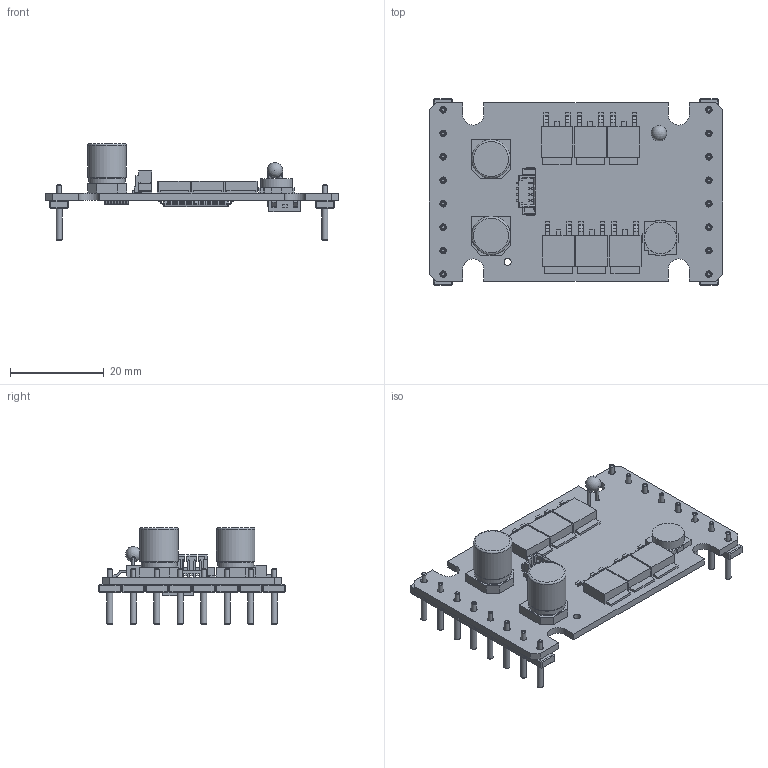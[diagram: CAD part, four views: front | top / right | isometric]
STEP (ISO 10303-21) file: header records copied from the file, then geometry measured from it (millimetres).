
FILE_DESCRIPTION(/* description */ (''),/* implementation_level */ '2;1');
FILE_NAME(/* name */ 'MCBL_LM3003.stp',/* time_stamp */ '2011-11-10T10:46:12+01:00',/* author */ ('DR. FRITZ FAULHABER GmbH & Co. KG'),/* organization */ ('DR. FRITZ FAULHABER GmbH & Co. KG'),/* preprocessor_version */ 'ST-DEVELOPER v11',/* originating_system */ 'SIEMENS PLM Software NX 7.5',/* authorisation */ '');
FILE_SCHEMA (('AUTOMOTIVE_DESIGN { 1 0 10303 214 1 1 1 1 }'));
Length unit declared in the file: millimetre
Products named in the file (1): hugeBC0Bfryi
Bounding box: 62.5 x 39.8 x 20.65 mm (x, y, z)
Volume: 6635.8 mm3; surface area: 8282 mm2
Topology: 2 solids, 2 shells, 2756 faces, 7484 edges, 4684 vertices
Faces by surface type: plane 2111, cylinder 596, cone 38, torus 8, bspline 2, sphere 1
Full cylindrical faces by diameter (mm): 0.6 x2, 0.8 x3, 1 x16, 1.3 x16, 1.4 x16, 1.5 x1, 6.8 x1, 7.7 x2, 8.2 x2
Entity records: 91740 total; most frequent: CARTESIAN_POINT 15173, ORIENTED_EDGE 14744, DIRECTION 14116, EDGE_CURVE 7372, LINE 6130, VECTOR 6130, VERTEX_POINT 4674, AXIS2_PLACEMENT_3D 3993
